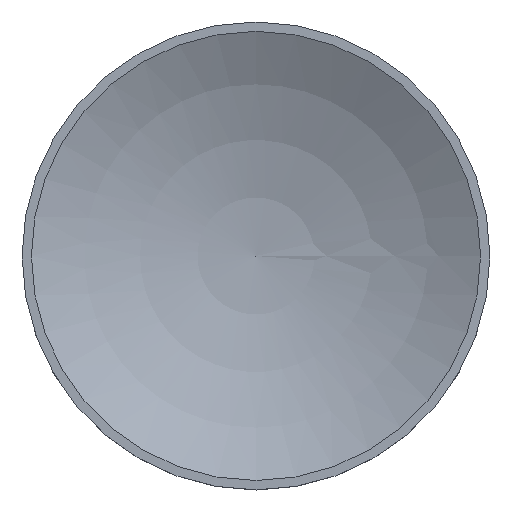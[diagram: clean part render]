
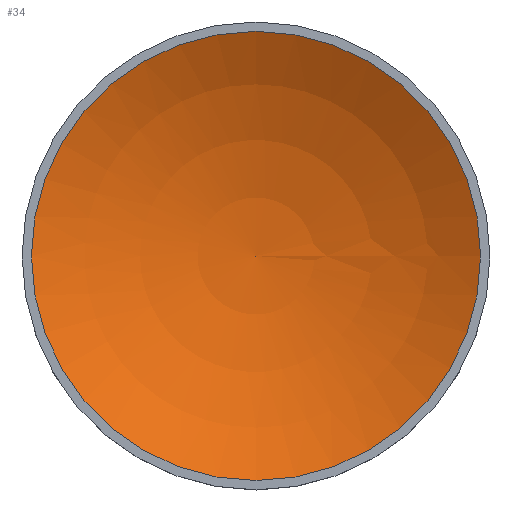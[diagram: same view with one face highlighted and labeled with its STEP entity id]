
A CAD part, top view. The second image highlights one B-rep face of the part: STEP entity #34.
In plain terms, the highlighted spherical face has radius 132 mm.
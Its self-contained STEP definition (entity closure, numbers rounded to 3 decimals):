
#34 = ADVANCED_FACE( '', ( #64 ), #65, .F. );
#64 = FACE_OUTER_BOUND( '', #85, .T. );
#65 = SPHERICAL_SURFACE( '', #86, 132. );
#85 = EDGE_LOOP( '', ( #106 ) );
#86 = AXIS2_PLACEMENT_3D( '', #107, #108, #109 );
#106 = ORIENTED_EDGE( '', *, *, #115, .T. );
#107 = CARTESIAN_POINT( '', ( 0., 0., 135.536 ) );
#108 = DIRECTION( '', ( 0., 0., 1. ) );
#109 = DIRECTION( '', ( 1., 0., 0. ) );
#115 = EDGE_CURVE( '', #124, #124, #125, .T. );
#124 = VERTEX_POINT( '', #134 );
#125 = CIRCLE( '', #135, 63.839 );
#134 = CARTESIAN_POINT( '', ( 63.839, 0., 20. ) );
#135 = AXIS2_PLACEMENT_3D( '', #143, #144, #145 );
#143 = CARTESIAN_POINT( '', ( 0., 0., 20. ) );
#144 = DIRECTION( '', ( 0., 0., 1. ) );
#145 = DIRECTION( '', ( 1., 0., 0. ) );
